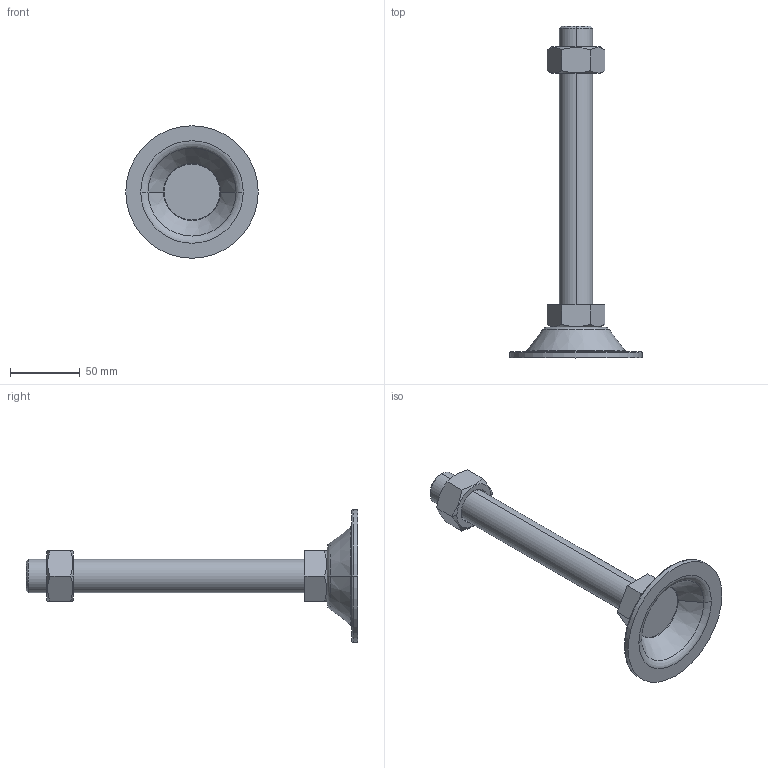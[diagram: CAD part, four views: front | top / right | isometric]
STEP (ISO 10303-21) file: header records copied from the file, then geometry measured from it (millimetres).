
FILE_DESCRIPTION (( 'STEP AP214' ), '1' );
FILE_NAME ('BL95-M24-200.step', '2021-01-06T05:42:23', ( '' ), ( '' ), 'SwSTEP 2.0', 'SolidWorks 2019', '' );
FILE_SCHEMA (( 'AUTOMOTIVE_DESIGN' ));
Length unit declared in the file: millimetre
Products named in the file (1): BL95-M24-200
Bounding box: 95 x 238 x 95 mm (x, y, z)
Volume: 158985.5 mm3; surface area: 42300.6 mm2
Topology: 3 solids, 3 shells, 53 faces, 110 edges, 66 vertices
Faces by surface type: plane 21, cone 16, torus 10, cylinder 6
Entity records: 1654 total; most frequent: CARTESIAN_POINT 464, DIRECTION 252, ORIENTED_EDGE 220, EDGE_CURVE 110, AXIS2_PLACEMENT_3D 106, VERTEX_POINT 66, EDGE_LOOP 58, FACE_OUTER_BOUND 53
